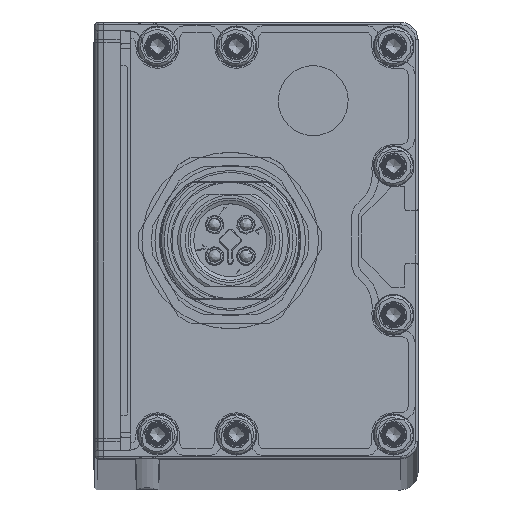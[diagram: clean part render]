
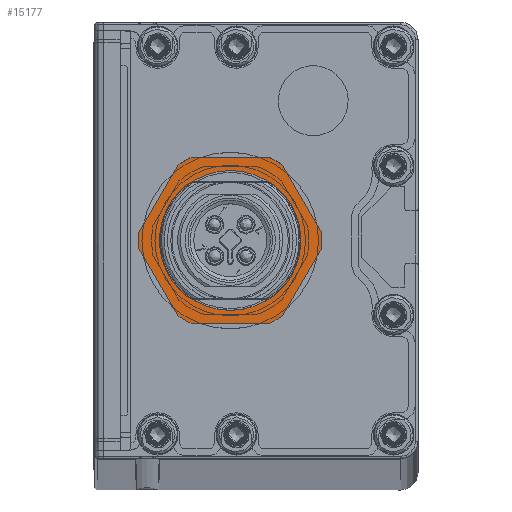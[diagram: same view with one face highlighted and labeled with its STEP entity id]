
A CAD part, top view. The second image highlights one B-rep face of the part: STEP entity #15177.
In plain terms, the highlighted planar face has unit normal (0, 0, 1) as drawn and (0, -1, 0) by its records, which use the part's own axes.
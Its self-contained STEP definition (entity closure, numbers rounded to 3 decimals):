
#14 = VECTOR ( 'NONE', #21686, 1000. ) ;
#461 = EDGE_CURVE ( 'NONE', #17612, #31574, #35848, .T. ) ;
#478 = CARTESIAN_POINT ( 'NONE',  ( 0., 13.5, 0. ) ) ;
#519 = VERTEX_POINT ( 'NONE', #34486 ) ;
#668 = VECTOR ( 'NONE', #39292, 1000. ) ;
#837 = LINE ( 'NONE', #16582, #13836 ) ;
#950 = CARTESIAN_POINT ( 'NONE',  ( -9.5, 13.5, 4.472 ) ) ;
#954 = ORIENTED_EDGE ( 'NONE', *, *, #29765, .T. ) ;
#1381 = CARTESIAN_POINT ( 'NONE',  ( -9.5, 13.5, -4.472 ) ) ;
#1458 = LINE ( 'NONE', #11067, #7718 ) ;
#1522 = ORIENTED_EDGE ( 'NONE', *, *, #8214, .F. ) ;
#1711 = CARTESIAN_POINT ( 'NONE',  ( 0., 13.5, 0. ) ) ;
#2900 = CIRCLE ( 'NONE', #32925, 10.5 ) ;
#2930 = ORIENTED_EDGE ( 'NONE', *, *, #13678, .F. ) ;
#3164 = VERTEX_POINT ( 'NONE', #28704 ) ;
#3467 = AXIS2_PLACEMENT_3D ( 'NONE', #1711, #14195, #23995 ) ;
#3919 = EDGE_CURVE ( 'NONE', #19349, #22909, #1458, .T. ) ;
#4682 = CARTESIAN_POINT ( 'NONE',  ( 8.623, 13.5, -5.991 ) ) ;
#5156 = FACE_BOUND ( 'NONE', #9443, .T. ) ;
#5896 = CARTESIAN_POINT ( 'NONE',  ( 9.5, 13.5, 4.472 ) ) ;
#6293 = DIRECTION ( 'NONE',  ( 0., 0., 1. ) ) ;
#7094 = DIRECTION ( 'NONE',  ( 0., 0., 1. ) ) ;
#7377 = VERTEX_POINT ( 'NONE', #38701 ) ;
#7718 = VECTOR ( 'NONE', #17416, 1000. ) ;
#7951 = VERTEX_POINT ( 'NONE', #31545 ) ;
#8214 = EDGE_CURVE ( 'NONE', #519, #3164, #18969, .T. ) ;
#8306 = DIRECTION ( 'NONE',  ( 0., 0., 1. ) ) ;
#8365 = EDGE_CURVE ( 'NONE', #24010, #25137, #33283, .T. ) ;
#8920 = CARTESIAN_POINT ( 'NONE',  ( 0., 13.5, 0. ) ) ;
#9027 = CARTESIAN_POINT ( 'NONE',  ( 0.877, 13.5, 10.463 ) ) ;
#9443 = EDGE_LOOP ( 'NONE', ( #954 ) ) ;
#10913 = ORIENTED_EDGE ( 'NONE', *, *, #31052, .F. ) ;
#11067 = CARTESIAN_POINT ( 'NONE',  ( 9.5, 13.5, 4.472 ) ) ;
#11291 = DIRECTION ( 'NONE',  ( 0., 1., 0. ) ) ;
#11906 = LINE ( 'NONE', #39880, #14 ) ;
#11994 = DIRECTION ( 'NONE',  ( 0., 1., 0. ) ) ;
#12203 = ORIENTED_EDGE ( 'NONE', *, *, #3919, .F. ) ;
#12403 = VECTOR ( 'NONE', #13867, 1000. ) ;
#13124 = ORIENTED_EDGE ( 'NONE', *, *, #461, .F. ) ;
#13678 = EDGE_CURVE ( 'NONE', #31574, #24010, #29390, .T. ) ;
#13744 = CARTESIAN_POINT ( 'NONE',  ( 0., 13.5, 0. ) ) ;
#13836 = VECTOR ( 'NONE', #31526, 1000. ) ;
#13867 = DIRECTION ( 'NONE',  ( 0., 0., 1. ) ) ;
#14195 = DIRECTION ( 'NONE',  ( 0., 1., 0. ) ) ;
#15177 = ADVANCED_FACE ( 'NONE', ( #20278, #5156 ), #17422, .F. ) ;
#15255 = EDGE_CURVE ( 'NONE', #25137, #7951, #11906, .T. ) ;
#15648 = AXIS2_PLACEMENT_3D ( 'NONE', #35087, #35895, #7094 ) ;
#15698 = ORIENTED_EDGE ( 'NONE', *, *, #15255, .F. ) ;
#15710 = VERTEX_POINT ( 'NONE', #37969 ) ;
#16418 = DIRECTION ( 'NONE',  ( 0., 1., 0. ) ) ;
#16499 = ORIENTED_EDGE ( 'NONE', *, *, #8365, .F. ) ;
#16582 = CARTESIAN_POINT ( 'NONE',  ( -0.877, 13.5, -10.463 ) ) ;
#16778 = EDGE_CURVE ( 'NONE', #32187, #23882, #24383, .T. ) ;
#17416 = DIRECTION ( 'NONE',  ( 0., 0., -1. ) ) ;
#17422 = PLANE ( 'NONE',  #27464 ) ;
#17612 = VERTEX_POINT ( 'NONE', #35113 ) ;
#18171 = CARTESIAN_POINT ( 'NONE',  ( 0.877, 13.5, -10.463 ) ) ;
#18474 = AXIS2_PLACEMENT_3D ( 'NONE', #8920, #11994, #8306 ) ;
#18969 = LINE ( 'NONE', #9027, #20233 ) ;
#19349 = VERTEX_POINT ( 'NONE', #5896 ) ;
#20233 = VECTOR ( 'NONE', #34893, 1000. ) ;
#20278 = FACE_OUTER_BOUND ( 'NONE', #36402, .T. ) ;
#20951 = ORIENTED_EDGE ( 'NONE', *, *, #16778, .F. ) ;
#21686 = DIRECTION ( 'NONE',  ( 0.866, 0., 0.5 ) ) ;
#22042 = DIRECTION ( 'NONE',  ( 0., 1., 0. ) ) ;
#22397 = CIRCLE ( 'NONE', #3467, 10.5 ) ;
#22909 = VERTEX_POINT ( 'NONE', #25377 ) ;
#23630 = CIRCLE ( 'NONE', #34716, 10.5 ) ;
#23882 = VERTEX_POINT ( 'NONE', #18171 ) ;
#23995 = DIRECTION ( 'NONE',  ( 0., 0., 1. ) ) ;
#24010 = VERTEX_POINT ( 'NONE', #950 ) ;
#24383 = LINE ( 'NONE', #27052, #668 ) ;
#25137 = VERTEX_POINT ( 'NONE', #36154 ) ;
#25377 = CARTESIAN_POINT ( 'NONE',  ( 9.5, 13.5, -4.472 ) ) ;
#25417 = ORIENTED_EDGE ( 'NONE', *, *, #31607, .F. ) ;
#25420 = DIRECTION ( 'NONE',  ( 0., 0., 1. ) ) ;
#25823 = CARTESIAN_POINT ( 'NONE',  ( 0., 13.5, 0. ) ) ;
#27052 = CARTESIAN_POINT ( 'NONE',  ( 8.623, 13.5, -5.991 ) ) ;
#27464 = AXIS2_PLACEMENT_3D ( 'NONE', #13744, #11291, #38654 ) ;
#27619 = CIRCLE ( 'NONE', #18474, 10.5 ) ;
#28663 = EDGE_CURVE ( 'NONE', #7951, #519, #2900, .T. ) ;
#28704 = CARTESIAN_POINT ( 'NONE',  ( 8.623, 13.5, 5.991 ) ) ;
#29390 = LINE ( 'NONE', #1381, #12403 ) ;
#29456 = ORIENTED_EDGE ( 'NONE', *, *, #28663, .F. ) ;
#29529 = CIRCLE ( 'NONE', #30857, 8. ) ;
#29765 = EDGE_CURVE ( 'NONE', #15710, #15710, #29529, .T. ) ;
#30835 = ORIENTED_EDGE ( 'NONE', *, *, #32696, .F. ) ;
#30857 = AXIS2_PLACEMENT_3D ( 'NONE', #478, #16418, #34611 ) ;
#31052 = EDGE_CURVE ( 'NONE', #23882, #7377, #23630, .T. ) ;
#31431 = DIRECTION ( 'NONE',  ( 0., 1., 0. ) ) ;
#31526 = DIRECTION ( 'NONE',  ( -0.866, 0., 0.5 ) ) ;
#31545 = CARTESIAN_POINT ( 'NONE',  ( -0.877, 13.5, 10.463 ) ) ;
#31574 = VERTEX_POINT ( 'NONE', #31729 ) ;
#31607 = EDGE_CURVE ( 'NONE', #7377, #17612, #837, .T. ) ;
#31666 = DIRECTION ( 'NONE',  ( 0., 0., 1. ) ) ;
#31729 = CARTESIAN_POINT ( 'NONE',  ( -9.5, 13.5, -4.472 ) ) ;
#32187 = VERTEX_POINT ( 'NONE', #4682 ) ;
#32696 = EDGE_CURVE ( 'NONE', #22909, #32187, #27619, .T. ) ;
#32925 = AXIS2_PLACEMENT_3D ( 'NONE', #36173, #22042, #31666 ) ;
#33236 = EDGE_CURVE ( 'NONE', #3164, #19349, #22397, .T. ) ;
#33283 = CIRCLE ( 'NONE', #15648, 10.5 ) ;
#34486 = CARTESIAN_POINT ( 'NONE',  ( 0.877, 13.5, 10.463 ) ) ;
#34611 = DIRECTION ( 'NONE',  ( 0., 0., 1. ) ) ;
#34716 = AXIS2_PLACEMENT_3D ( 'NONE', #25823, #34817, #25420 ) ;
#34817 = DIRECTION ( 'NONE',  ( 0., 1., 0. ) ) ;
#34893 = DIRECTION ( 'NONE',  ( 0.866, 0., -0.5 ) ) ;
#35087 = CARTESIAN_POINT ( 'NONE',  ( 0., 13.5, 0. ) ) ;
#35113 = CARTESIAN_POINT ( 'NONE',  ( -8.623, 13.5, -5.991 ) ) ;
#35319 = ORIENTED_EDGE ( 'NONE', *, *, #33236, .F. ) ;
#35848 = CIRCLE ( 'NONE', #37174, 10.5 ) ;
#35895 = DIRECTION ( 'NONE',  ( 0., 1., 0. ) ) ;
#36154 = CARTESIAN_POINT ( 'NONE',  ( -8.623, 13.5, 5.991 ) ) ;
#36173 = CARTESIAN_POINT ( 'NONE',  ( 0., 13.5, 0. ) ) ;
#36402 = EDGE_LOOP ( 'NONE', ( #16499, #2930, #13124, #25417, #10913, #20951, #30835, #12203, #35319, #1522, #29456, #15698 ) ) ;
#37174 = AXIS2_PLACEMENT_3D ( 'NONE', #40218, #31431, #6293 ) ;
#37969 = CARTESIAN_POINT ( 'NONE',  ( 0., 13.5, 8. ) ) ;
#38654 = DIRECTION ( 'NONE',  ( 0., 0., 1. ) ) ;
#38701 = CARTESIAN_POINT ( 'NONE',  ( -0.877, 13.5, -10.463 ) ) ;
#39292 = DIRECTION ( 'NONE',  ( -0.866, 0., -0.5 ) ) ;
#39880 = CARTESIAN_POINT ( 'NONE',  ( -8.623, 13.5, 5.991 ) ) ;
#40218 = CARTESIAN_POINT ( 'NONE',  ( 0., 13.5, 0. ) ) ;
